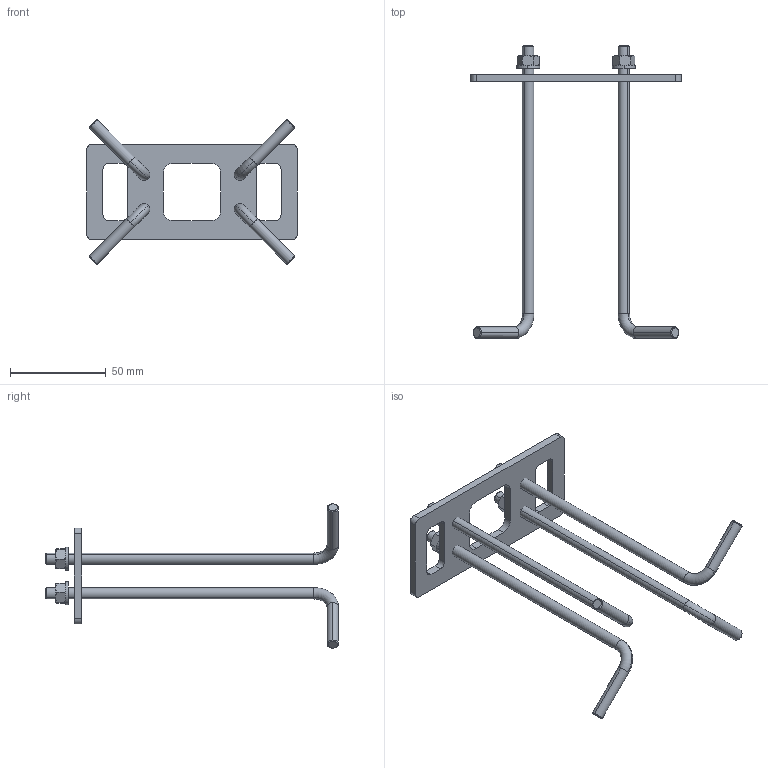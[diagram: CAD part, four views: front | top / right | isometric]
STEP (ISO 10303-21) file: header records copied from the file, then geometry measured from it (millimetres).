
FILE_DESCRIPTION (( 'STEP AP203' ), '1' );
FILE_NAME ('1907.STEP', '2020-07-09T12:28:58', ( '' ), ( '' ), 'SwSTEP 2.0', 'SolidWorks 2019', '' );
FILE_SCHEMA (( 'CONFIG_CONTROL_DESIGN' ));
Length unit declared in the file: millimetre
Products named in the file (5): 1907; M6_rs; POD 6,4_rs; M9780_W11_M5_PODST BET_rs; M9780_W11_PODST BET_rs
Assembly tree (13 placements, depth 2):
  1907
    M9780_W11_PODST BET_rs
    M9780_W11_M5_PODST BET_rs  x4
    POD 6,4_rs  x4
    M6_rs  x4
Bounding box: 110 x 153 x 75.28 mm (x, y, z)
Volume: 37690.2 mm3; surface area: 26702.8 mm2
Topology: 13 solids, 13 shells, 202 faces, 456 edges, 280 vertices
Faces by surface type: plane 66, cylinder 64, cone 64, torus 8
Entity records: 3371 total; most frequent: CARTESIAN_POINT 552, DIRECTION 464, ORIENTED_EDGE 408, EDGE_CURVE 204, AXIS2_PLACEMENT_3D 186, VERTEX_POINT 130, EDGE_LOOP 100, VECTOR 92
